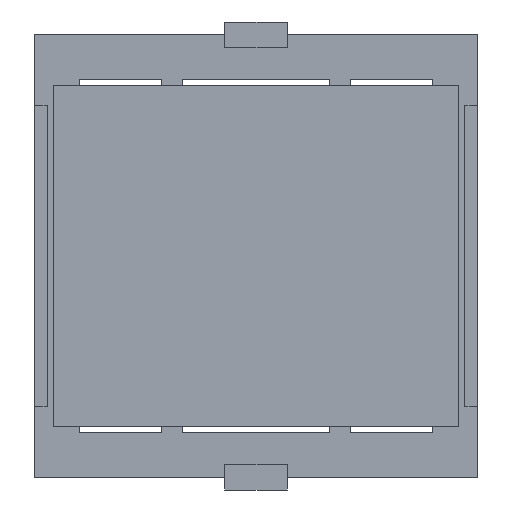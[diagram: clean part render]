
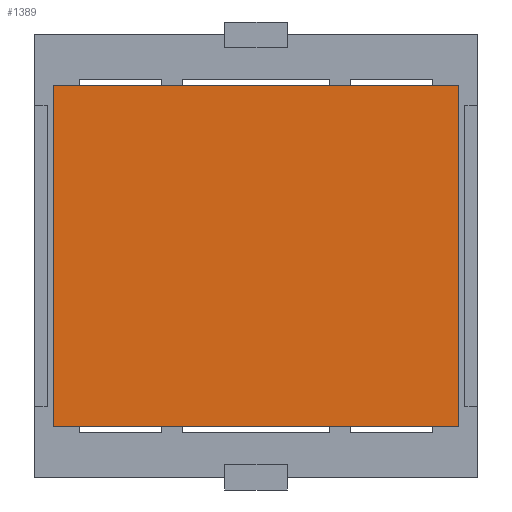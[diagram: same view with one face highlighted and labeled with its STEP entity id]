
A CAD part, front view. The second image highlights one B-rep face of the part: STEP entity #1389.
In plain terms, the highlighted planar face has unit normal (0, -1, 0).
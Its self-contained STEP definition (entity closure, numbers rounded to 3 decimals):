
#253 = VERTEX_POINT ( 'NONE', #4391 ) ;
#312 = DIRECTION ( 'NONE',  ( 0., 1., 0. ) ) ;
#334 = LINE ( 'NONE', #4897, #3731 ) ;
#376 = EDGE_CURVE ( 'NONE', #3853, #4058, #5674, .T. ) ;
#433 = ORIENTED_EDGE ( 'NONE', *, *, #2705, .F. ) ;
#654 = FACE_OUTER_BOUND ( 'NONE', #4270, .T. ) ;
#748 = ORIENTED_EDGE ( 'NONE', *, *, #1051, .F. ) ;
#1051 = EDGE_CURVE ( 'NONE', #3009, #253, #2038, .T. ) ;
#1259 = VECTOR ( 'NONE', #5228, 1000. ) ;
#1389 = ADVANCED_FACE ( 'NONE', ( #654 ), #2039, .F. ) ;
#1505 = CARTESIAN_POINT ( 'NONE',  ( -16.129, -0.127, -13.589 ) ) ;
#1564 = LINE ( 'NONE', #3474, #1599 ) ;
#1599 = VECTOR ( 'NONE', #4372, 1000. ) ;
#1967 = CARTESIAN_POINT ( 'NONE',  ( -16.129, -0.127, 13.589 ) ) ;
#2038 = LINE ( 'NONE', #5745, #4984 ) ;
#2039 = PLANE ( 'NONE',  #4120 ) ;
#2142 = DIRECTION ( 'NONE',  ( 0., 0., 1. ) ) ;
#2544 = ORIENTED_EDGE ( 'NONE', *, *, #376, .F. ) ;
#2705 = EDGE_CURVE ( 'NONE', #4058, #3009, #334, .T. ) ;
#3009 = VERTEX_POINT ( 'NONE', #1967 ) ;
#3166 = EDGE_CURVE ( 'NONE', #253, #3853, #1564, .T. ) ;
#3366 = CARTESIAN_POINT ( 'NONE',  ( 16.129, -0.127, -13.589 ) ) ;
#3453 = DIRECTION ( 'NONE',  ( 1., 0., 0. ) ) ;
#3456 = DIRECTION ( 'NONE',  ( 0., 0., 1. ) ) ;
#3474 = CARTESIAN_POINT ( 'NONE',  ( 16.129, -0.127, -13.589 ) ) ;
#3731 = VECTOR ( 'NONE', #2142, 1000. ) ;
#3837 = ORIENTED_EDGE ( 'NONE', *, *, #3166, .F. ) ;
#3853 = VERTEX_POINT ( 'NONE', #3366 ) ;
#4058 = VERTEX_POINT ( 'NONE', #5231 ) ;
#4120 = AXIS2_PLACEMENT_3D ( 'NONE', #4484, #312, #3456 ) ;
#4270 = EDGE_LOOP ( 'NONE', ( #433, #2544, #3837, #748 ) ) ;
#4372 = DIRECTION ( 'NONE',  ( 0., 0., -1. ) ) ;
#4391 = CARTESIAN_POINT ( 'NONE',  ( 16.129, -0.127, 13.589 ) ) ;
#4484 = CARTESIAN_POINT ( 'NONE',  ( -16.129, -0.127, 13.589 ) ) ;
#4897 = CARTESIAN_POINT ( 'NONE',  ( -16.129, -0.127, -13.589 ) ) ;
#4984 = VECTOR ( 'NONE', #3453, 1000. ) ;
#5228 = DIRECTION ( 'NONE',  ( -1., 0., 0. ) ) ;
#5231 = CARTESIAN_POINT ( 'NONE',  ( -16.129, -0.127, -13.589 ) ) ;
#5674 = LINE ( 'NONE', #1505, #1259 ) ;
#5745 = CARTESIAN_POINT ( 'NONE',  ( -16.129, -0.127, 13.589 ) ) ;
